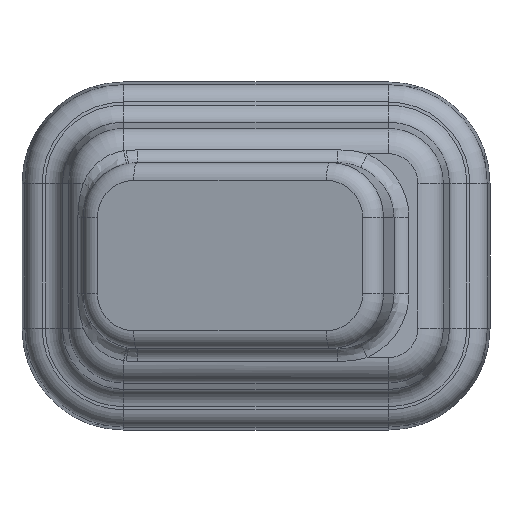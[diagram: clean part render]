
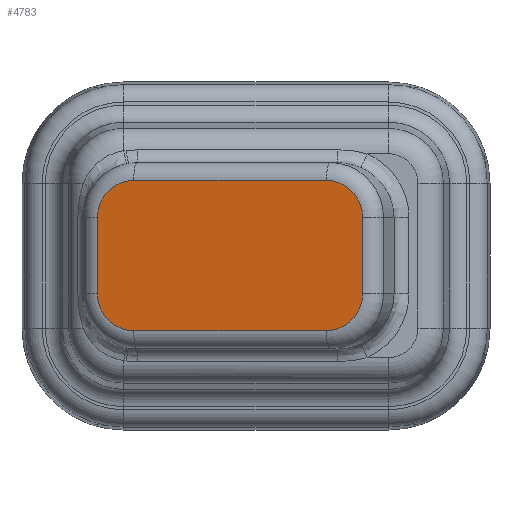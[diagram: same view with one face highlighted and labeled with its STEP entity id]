
A CAD part, top view. The second image highlights one B-rep face of the part: STEP entity #4783.
In plain terms, the highlighted planar face has unit normal (-0.194, 0, 0.981).
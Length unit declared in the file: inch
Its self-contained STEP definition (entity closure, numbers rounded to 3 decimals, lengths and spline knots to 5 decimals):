
#270=PLANE('',#5231);
#476=FACE_OUTER_BOUND('',#754,.T.);
#754=EDGE_LOOP('',(#4015,#4016,#4017,#4018,#4019,#4020,#4021,#4022));
#1200=LINE('',#8024,#1692);
#1210=LINE('',#8070,#1702);
#1211=LINE('',#8077,#1703);
#1212=LINE('',#8086,#1704);
#1692=VECTOR('',#6163,0.3937);
#1702=VECTOR('',#6215,0.3937);
#1703=VECTOR('',#6226,0.3937);
#1704=VECTOR('',#6237,0.3937);
#1903=CIRCLE('',#5199,0.07257);
#1913=CIRCLE('',#5217,0.07257);
#1917=CIRCLE('',#5223,0.07257);
#1919=CIRCLE('',#5227,0.07257);
#2288=VERTEX_POINT('',#8021);
#2289=VERTEX_POINT('',#8023);
#2291=VERTEX_POINT('',#8029);
#2301=VERTEX_POINT('',#8063);
#2304=VERTEX_POINT('',#8068);
#2305=VERTEX_POINT('',#8075);
#2306=VERTEX_POINT('',#8079);
#2308=VERTEX_POINT('',#8084);
#2867=EDGE_CURVE('',#2288,#2289,#1200,.T.);
#2871=EDGE_CURVE('',#2291,#2288,#1903,.T.);
#2890=EDGE_CURVE('',#2304,#2301,#1210,.T.);
#2891=EDGE_CURVE('',#2289,#2304,#1913,.T.);
#2894=EDGE_CURVE('',#2305,#2291,#1211,.T.);
#2896=EDGE_CURVE('',#2306,#2305,#1917,.T.);
#2898=EDGE_CURVE('',#2308,#2306,#1212,.T.);
#2900=EDGE_CURVE('',#2301,#2308,#1919,.T.);
#4015=ORIENTED_EDGE('',*,*,#2890,.F.);
#4016=ORIENTED_EDGE('',*,*,#2891,.F.);
#4017=ORIENTED_EDGE('',*,*,#2867,.F.);
#4018=ORIENTED_EDGE('',*,*,#2871,.F.);
#4019=ORIENTED_EDGE('',*,*,#2894,.F.);
#4020=ORIENTED_EDGE('',*,*,#2896,.F.);
#4021=ORIENTED_EDGE('',*,*,#2898,.F.);
#4022=ORIENTED_EDGE('',*,*,#2900,.F.);
#4783=ADVANCED_FACE('',(#476),#270,.T.);
#5199=AXIS2_PLACEMENT_3D('',#8031,#6172,#6173);
#5217=AXIS2_PLACEMENT_3D('',#8072,#6218,#6219);
#5223=AXIS2_PLACEMENT_3D('',#8081,#6231,#6232);
#5227=AXIS2_PLACEMENT_3D('',#8089,#6241,#6242);
#5231=AXIS2_PLACEMENT_3D('',#8095,#6251,#6252);
#6163=DIRECTION('',(0.,1.,0.));
#6172=DIRECTION('center_axis',(0.194,0.,
-0.981));
#6173=DIRECTION('ref_axis',(-0.694,-0.707,-0.137));
#6215=DIRECTION('',(0.981,0.,0.194));
#6218=DIRECTION('center_axis',(0.194,0.,
-0.981));
#6219=DIRECTION('ref_axis',(-0.694,0.707,-0.137));
#6226=DIRECTION('',(-0.981,0.,-0.194));
#6231=DIRECTION('center_axis',(0.194,0.,
-0.981));
#6232=DIRECTION('ref_axis',(0.694,-0.707,0.137));
#6237=DIRECTION('',(0.,-1.,0.));
#6241=DIRECTION('center_axis',(0.194,0.,
-0.981));
#6242=DIRECTION('ref_axis',(0.694,0.707,0.137));
#6251=DIRECTION('center_axis',(-0.194,0.,
0.981));
#6252=DIRECTION('ref_axis',(0.981,0.,0.194));
#8021=CARTESIAN_POINT('',(0.14861,0.26723,0.40388));
#8023=CARTESIAN_POINT('',(0.14861,0.41777,0.40388));
#8024=CARTESIAN_POINT('',(0.14861,0.38014,0.40388));
#8029=CARTESIAN_POINT('',(0.2198,0.19466,0.41794));
#8031=CARTESIAN_POINT('Origin',(0.2198,0.26723,0.41794));
#8063=CARTESIAN_POINT('',(0.59903,0.49034,0.49281));
#8068=CARTESIAN_POINT('',(0.2198,0.49034,0.41794));
#8070=CARTESIAN_POINT('',(0.50422,0.49034,0.47409));
#8072=CARTESIAN_POINT('Origin',(0.2198,0.41777,0.41794));
#8075=CARTESIAN_POINT('',(0.59903,0.19466,0.49281));
#8077=CARTESIAN_POINT('',(0.31461,0.19466,0.43666));
#8079=CARTESIAN_POINT('',(0.67022,0.26723,0.50687));
#8081=CARTESIAN_POINT('Origin',(0.59903,0.26723,0.49281));
#8084=CARTESIAN_POINT('',(0.67022,0.41777,0.50687));
#8086=CARTESIAN_POINT('',(0.67022,0.30486,0.50687));
#8089=CARTESIAN_POINT('Origin',(0.59903,0.41777,0.49281));
#8095=CARTESIAN_POINT('Origin',(0.40942,0.3425,0.45538));
